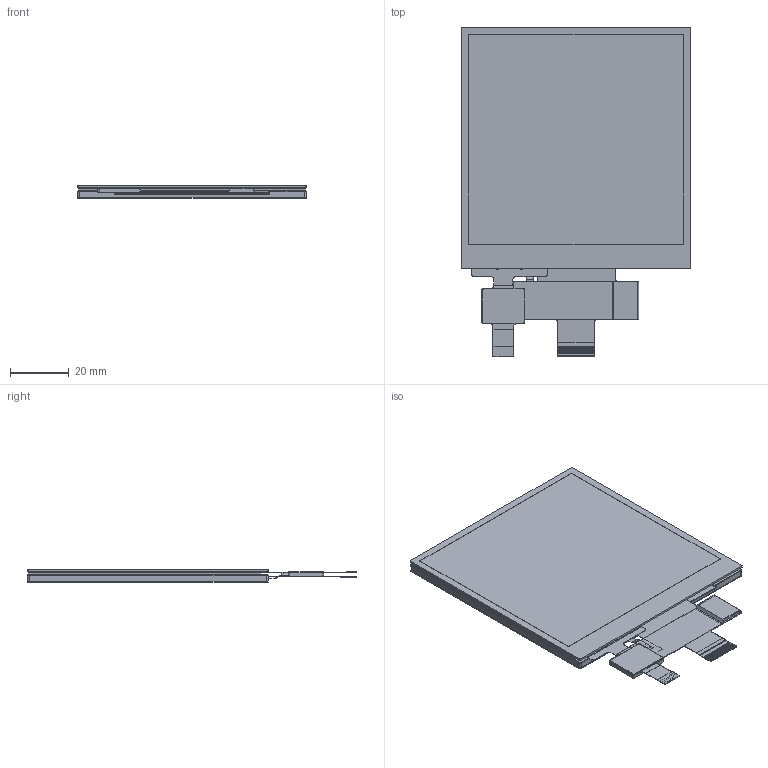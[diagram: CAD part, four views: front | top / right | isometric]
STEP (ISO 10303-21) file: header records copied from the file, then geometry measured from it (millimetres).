
FILE_DESCRIPTION (( 'STEP AP203' ), '1' );
FILE_NAME ('NHD-4.0-480480AF-MSXP-CTP.STEP', '2025-11-04T19:15:39', ( '' ), ( '' ), 'SwSTEP 2.0', 'SolidWorks 2019', '' );
FILE_SCHEMA (( 'CONFIG_CONTROL_DESIGN' ));
Length unit declared in the file: millimetre
Products named in the file (1): NHD-4.0-480480AF-MSXP-CTP
Bounding box: 77.86 x 111.84 x 4.15 mm (x, y, z)
Volume: 25355 mm3; surface area: 140335.1 mm2
Topology: 58 solids, 58 shells, 583 faces, 1389 edges, 922 vertices
Faces by surface type: plane 478, cylinder 105
Entity records: 16660 total; most frequent: CARTESIAN_POINT 2895, ORIENTED_EDGE 2778, DIRECTION 2767, EDGE_CURVE 1389, VECTOR 1179, LINE 1179, VERTEX_POINT 922, AXIS2_PLACEMENT_3D 794
